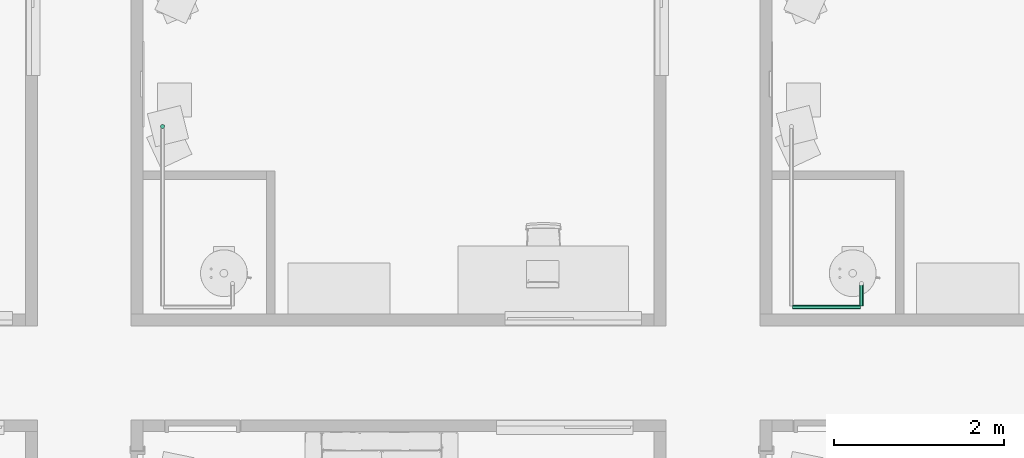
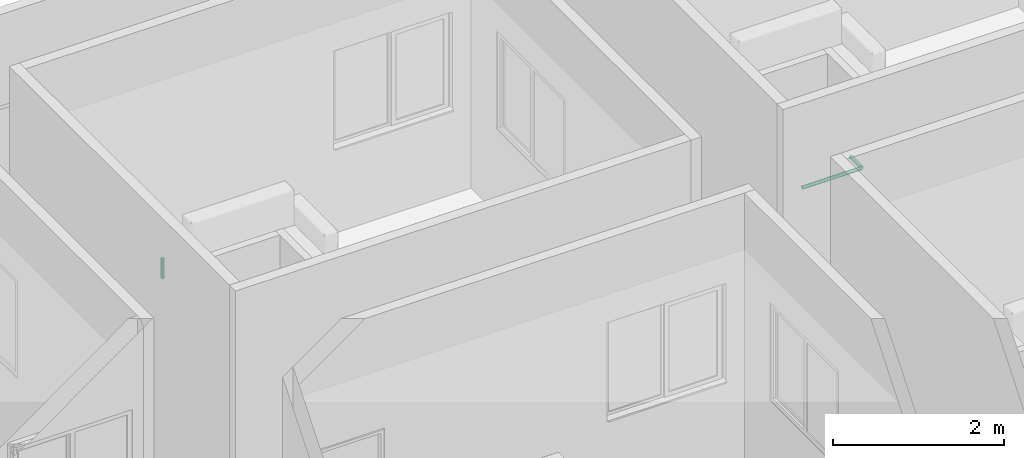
# One storey, part 51 of 69: 3 pipe segments.
"""IFC4 building model written with IfcOpenShell, lengths in centimetres."""

from ifc_helpers import new_model, entity, si_unit, converted_unit, derived_unit, direction, frame, origin, place, context, subcontext, project, spatial, arc, indexed_curve, outline, extrude, type_object, element, save


model = new_model("IFC4")

# Units and contexts
model_context = context("Model", 3, precision=0.001, world=origin(), true_north=direction((6.123233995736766e-17, 1.0)))
body_context = subcontext(model_context, "Body", "Model", "MODEL_VIEW")
ifc_project = project(units=[si_unit("LENGTHUNIT", "METRE", prefix="CENTI"), si_unit("AREAUNIT", "SQUARE_METRE"), si_unit("VOLUMEUNIT", "CUBIC_METRE"), derived_unit("THERMALTRANSMITTANCEUNIT", [(si_unit("MASSUNIT", "GRAM", prefix="KILO"), 1), (si_unit("THERMODYNAMICTEMPERATUREUNIT", "KELVIN"), -1), (si_unit("TIMEUNIT", "SECOND"), -3)]), converted_unit("PLANEANGLEUNIT", "DEGREE", entity("IfcPlaneAngleMeasure", 0.017453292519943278), si_unit("PLANEANGLEUNIT", "RADIAN"), dimensions=[0, 0, 0, 0, 0, 0, 0]), derived_unit("MASSDENSITYUNIT", [(si_unit("MASSUNIT", "GRAM", prefix="KILO"), 1), (si_unit("LENGTHUNIT", "METRE"), -3)]), derived_unit("VAPORPERMEABILITYUNIT", [(si_unit("LENGTHUNIT", "METRE"), -1), (si_unit("TIMEUNIT", "SECOND"), 1)]), derived_unit("USERDEFINED", [(si_unit("MASSUNIT", "GRAM", prefix="KILO"), 1), (si_unit("TIMEUNIT", "SECOND"), -3), (si_unit("LENGTHUNIT", "METRE"), 3), (si_unit("ELECTRICCURRENTUNIT", "AMPERE"), -2)]), derived_unit("SPECIFICHEATCAPACITYUNIT", [(si_unit("THERMODYNAMICTEMPERATUREUNIT", "KELVIN"), -1), (si_unit("LENGTHUNIT", "METRE"), 2), (si_unit("TIMEUNIT", "SECOND"), -2)]), derived_unit("THERMALCONDUCTANCEUNIT", [(si_unit("MASSUNIT", "GRAM", prefix="KILO"), 1), (si_unit("THERMODYNAMICTEMPERATUREUNIT", "KELVIN"), -1), (si_unit("TIMEUNIT", "SECOND"), -3), (si_unit("LENGTHUNIT", "METRE"), 1)]), si_unit("PRESSUREUNIT", "PASCAL"), derived_unit("MODULUSOFELASTICITYUNIT", [(si_unit("MASSUNIT", "GRAM", prefix="KILO"), 1), (si_unit("LENGTHUNIT", "METRE"), -1), (si_unit("TIMEUNIT", "SECOND"), -2)]), derived_unit("THERMALEXPANSIONCOEFFICIENTUNIT", [(si_unit("THERMODYNAMICTEMPERATUREUNIT", "KELVIN"), -1)])], contexts=[model_context])

# Site, building, storey
site_placement = place(None, origin())
site = spatial("IfcSite", under=ifc_project, at=site_placement, Name="Default", CompositionType="ELEMENT")
building_placement = place(site_placement, origin())
building = spatial("IfcBuilding", under=site, at=building_placement, Name="IDS Escape Game Building", CompositionType="ELEMENT")
storey_placement = place(building_placement, origin())
storey = spatial("IfcBuildingStorey", under=building, at=storey_placement, Name="00_Ground Floor", CompositionType="ELEMENT", Elevation=0.0)

# Pipe segments
pipe_segment_type = type_object("IfcPipeSegmentType", Name="Pipe Types:Piping Aluminum", PredefinedType="NOTDEFINED")
pipe_segment_1_placement = place(storey_placement, origin())
element("IfcPipeSegment", 1, at=pipe_segment_1_placement, inside=storey, type_object=pipe_segment_type, Name="Pipe Types:Piping Aluminum", ObjectType="Pipe Types:Piping Aluminum", PredefinedType="NOTDEFINED", context=body_context, shape_type="SweptSolid", body=[
    extrude(outline(indexed_curve([(2.412999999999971, 0.0), (1.7062486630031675, 1.7062486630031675), (0.0, 2.412999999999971), (-1.7062486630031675, 1.7062486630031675), (-2.412999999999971, 0.0), (-1.7062486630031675, -1.7062486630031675), (0.0, -2.412999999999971), (1.7062486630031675, -1.7062486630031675)], segments=[arc(1, 2, 3), arc(3, 4, 5), arc(5, 6, 7), arc(7, 8, 1)], self_intersect=False)), frame((3720.0467168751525, 2785.26482792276, 244.0999999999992), z_axis=(0.0, 0.0, 1.0), x_axis=(-1.0, 0.0, 0.0)), (0.0, 0.0, 1.0), 27.90000000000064),
])
pipe_segment_2_placement = place(storey_placement, origin())
element("IfcPipeSegment", 2, at=pipe_segment_2_placement, inside=storey, type_object=pipe_segment_type, Name="Pipe Types:Piping Aluminum", ObjectType="Pipe Types:Piping Aluminum", PredefinedType="NOTDEFINED", context=body_context, shape_type="SweptSolid", body=[
    extrude(outline(indexed_curve([(2.412999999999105, -2.165734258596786e-13), (1.7062486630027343, 1.7062486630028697), (3.6842275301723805e-29, 2.4130000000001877), (-1.7062486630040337, 1.7062486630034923), (-2.4130000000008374, -1.6243006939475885e-13), (-1.7062486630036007, -1.706248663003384), (-3.684227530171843e-29, -2.412999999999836), (1.706248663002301, -1.7062486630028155)], segments=[arc(1, 2, 3), arc(3, 4, 5), arc(5, 6, 7), arc(7, 8, 1)], self_intersect=False)), frame((4459.146716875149, 2573.264827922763, 242.0), z_axis=(1.0, 0.0, 0.0), x_axis=(0.0, 1.0, 0.0)), (0.0, 0.0, 1.0), 79.90328312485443),
])
pipe_segment_3_placement = place(storey_placement, origin())
element("IfcPipeSegment", 3, at=pipe_segment_3_placement, inside=storey, type_object=pipe_segment_type, Name="Pipe Types:Piping Aluminum", ObjectType="Pipe Types:Piping Aluminum", PredefinedType="NOTDEFINED", context=body_context, shape_type="SweptSolid", body=[
    extrude(outline(indexed_curve([(2.412999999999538, -2.7071678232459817e-14), (1.7062486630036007, 1.706248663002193), (1.7325874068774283e-12, 2.412999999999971), (-1.7062486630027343, 1.7062486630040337), (-2.413000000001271, -2.7071678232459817e-14), (-1.7062486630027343, -1.7062486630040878), (1.7325874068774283e-12, -2.413000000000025), (1.7062486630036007, -1.706248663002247)], segments=[arc(1, 2, 3), arc(3, 4, 5), arc(5, 6, 7), arc(7, 8, 1)], self_intersect=False)), frame((4540.150000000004, 2574.364827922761, 242.0), z_axis=(0.0, 1.0, 0.0), x_axis=(-1.0, 0.0, 0.0)), (0.0, 0.0, 1.0), 25.43517207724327),
])

save(model, "model.ifc")
